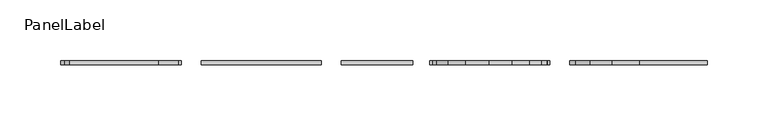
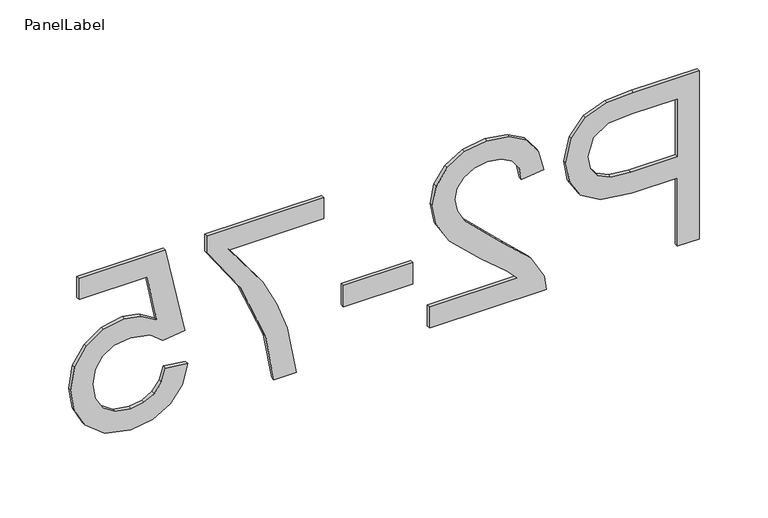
"""IFC4 building model written with IfcOpenShell, lengths in millimetres: fastener geometry, PanelLabel : Miranda."""

from ifc_helpers import new_model, si_unit, frame, origin, place, context, project, spatial, polyline, outline, extrude, source, transform, mapped, element, save


def panellabel_e923d0c2(model_context):
    return source(origin(), model_context, "Body", "SweptSolid", [
        extrude(outline(polyline([(1310.9113766, 260.2523077), (1460.9667612, 260.2523077), (1460.9667612, 204.6409615), (1459.5380112, 182.2205769), (1452.5224823, 163.9948558), (1438.0151747, 152.1801923), (1417.554742, 147.7107692), (1399.8693814, 150.7285457), (1385.1331073, 159.781875), (1375.1868093, 176.7116466), (1371.8713766, 203.35875), (1371.8713766, 241.4953846), (1310.9113766, 241.4953846), (1310.9113766, 260.2523077)]), holes=[polyline([(1390.6282997, 241.4953846), (1390.6282997, 202.2597115), (1392.3501266, 185.6275962), (1397.5156073, 174.6372115), (1405.8041891, 168.5100721), (1416.8953189, 166.4676923), (1432.4283958, 171.2851442), (1440.9276266, 183.9424038), (1442.2098381, 202.6993269), (1442.2098381, 241.4953846), (1390.6282997, 241.4953846)])]), frame((0.0, 60.325, 0.0), z_axis=(0.0, 1.0, 0.0), x_axis=(0.0, 0.0, 1.0)), (0.0, 0.0, 1.0), 3.175),
        extrude(outline(polyline([(1329.6682997, 32.8246154), (1310.9113766, 32.8246154), (1310.9113766, 131.2984615), (1323.8433958, 129.2835577), (1343.7543093, 117.8901923), (1365.4969535, 94.4074038), (1396.7462804, 62.0224038), (1407.5168573, 55.9502163), (1417.9943573, 53.9261538), (1427.3865569, 55.8357332), (1435.1943093, 61.5644712), (1440.4559559, 70.3705168), (1442.2098381, 81.5120192), (1440.4971698, 93.2121995), (1435.359165, 102.3021635), (1427.1988045, 108.1682813), (1416.4190689, 110.1969231), (1418.7636843, 128.9538462), (1436.9069775, 124.4065745), (1450.1595497, 114.5747596), (1458.2649583, 99.9712861), (1460.9667612, 81.1090385), (1457.9627227, 62.1094111), (1448.9506073, 47.5334135), (1435.4873862, 38.2602764), (1419.1300304, 35.1692308), (1401.3439247, 38.5029808), (1382.9533477, 49.5849519), (1357.254165, 76.4564423), (1339.211617, 98.0342308), (1329.6682997, 106.4968269), (1329.6682997, 32.8246154)])), frame((0.0, 60.325, 0.0), z_axis=(0.0, 1.0, 0.0), x_axis=(0.0, 0.0, 1.0)), (0.0, 0.0, 1.0), 3.175),
        extrude(outline(polyline([(-39.8584615, 63.5), (18.7569231, 63.5), (18.7569231, 60.325), (-39.8584615, 60.325), (-39.8584615, 63.5)])), frame((0.0, 0.0, 1355.4590689), z_axis=(0.0, 0.0, 1.0), x_axis=(1.0, 0.0, 0.0)), (0.0, 0.0, 1.0), 18.7569231),
        extrude(outline(polyline([(1439.8652227, -56.2707692), (1458.6221458, -56.2707692), (1458.6221458, -154.7446154), (1443.455415, -154.7446154), (1403.1023862, -126.8107212), (1351.6857035, -105.4344231), (1310.9113766, -98.4738462), (1310.9113766, -79.7169231), (1353.2243573, -87.1720673), (1377.5817972, -95.8498918), (1401.0508477, -107.6325), (1439.8652227, -135.9876923), (1439.8652227, -56.2707692)])), frame((0.0, 60.325, 0.0), z_axis=(0.0, 1.0, 0.0), x_axis=(0.0, 0.0, 1.0)), (0.0, 0.0, 1.0), 3.175),
        extrude(outline(polyline([(1350.7698381, -171.1569231), (1353.1144535, -189.9138462), (1341.8538886, -193.3575), (1333.7896939, -199.3655769), (1328.9401867, -207.910601), (1327.3236843, -218.9650962), (1329.5721338, -232.41), (1336.3174823, -242.4845192), (1346.7812444, -248.7765144), (1360.1849343, -250.8738462), (1372.8055593, -248.9093149), (1382.4587804, -243.0157212), (1388.5859198, -233.1472716), (1390.6282997, -219.2581731), (1387.3678189, -202.7909135), (1378.9052227, -192.2584615), (1381.2498381, -173.5015385), (1458.6221458, -189.9138462), (1458.6221458, -262.5969231), (1439.8652227, -262.5969231), (1439.8652227, -205.0805769), (1398.5413766, -197.0575962), (1406.6742612, -210.4567067), (1409.3852227, -224.4969231), (1406.0239968, -242.0220072), (1395.9403189, -256.5705288), (1380.5720977, -266.3657091), (1361.357242, -269.6307692), (1342.6003189, -266.6908413), (1326.5543573, -257.8710577), (1313.0636602, -240.9825), (1308.5667612, -218.8918269), (1311.4563165, -200.4691947), (1320.1249823, -185.7924519), (1333.5653069, -175.7316707), (1350.7698381, -171.1569231)])), frame((0.0, 60.325, 0.0), z_axis=(0.0, 1.0, 0.0), x_axis=(0.0, 0.0, 1.0)), (0.0, 0.0, 1.0), 3.175),
    ])


if __name__ == "__main__":
    model = new_model("IFC4")
    model_context = context("Model", 3, world=origin())
    ifc_project = project(units=[si_unit("LENGTHUNIT", "METRE", prefix="MILLI")], contexts=[model_context])
    site = spatial("IfcSite", under=ifc_project)
    building = spatial("IfcBuilding", under=site)
    placement = place(None, origin())
    panellabel_shape = panellabel_e923d0c2(model_context)
    element("IfcFastener", 1, ObjectType="PanelLabel : Miranda", at=placement, inside=building, context=model_context, shape_type="MappedRepresentation", body=[
        mapped(panellabel_shape, transform((0.0, 0.0, 0.0), x_axis=(1.0, 0.0, 0.0), y_axis=(0.0, 1.0, 0.0), z_axis=(0.0, 0.0, 1.0))),
    ])
    save(model, "model.ifc")
